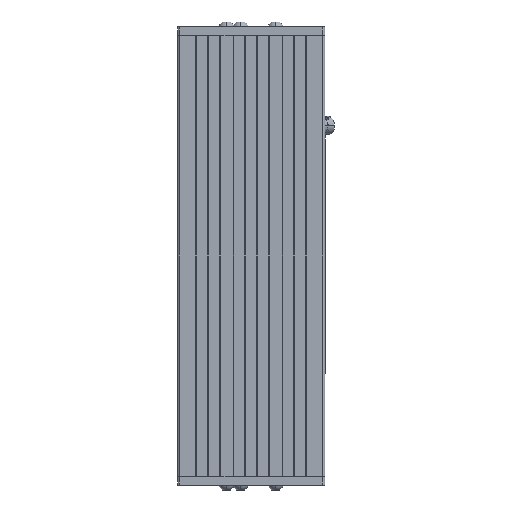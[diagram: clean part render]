
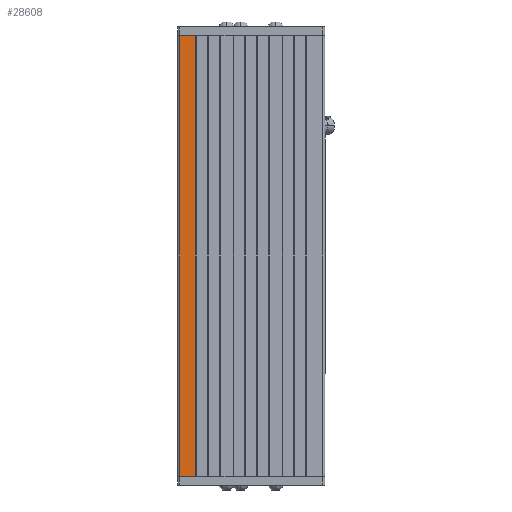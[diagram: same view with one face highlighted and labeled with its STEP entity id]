
A CAD part, front view. The second image highlights one B-rep face of the part: STEP entity #28608.
In plain terms, the highlighted planar face has unit normal (0, -1, 0).
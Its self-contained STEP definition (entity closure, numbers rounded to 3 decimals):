
#383 = CARTESIAN_POINT ( 'NONE',  ( -64.426, -36.746, 0. ) ) ;
#485 = CARTESIAN_POINT ( 'NONE',  ( -49.926, -36.746, 0. ) ) ;
#510 = CARTESIAN_POINT ( 'NONE',  ( -49.926, -36.746, 404. ) ) ;
#566 = CARTESIAN_POINT ( 'NONE',  ( -64.426, -36.746, 404. ) ) ;
#5115 = LINE ( 'NONE', #11749, #5119 ) ;
#5119 = VECTOR ( 'NONE', #11751, 1000. ) ;
#5687 = LINE ( 'NONE', #12205, #5689 ) ;
#5689 = VECTOR ( 'NONE', #12206, 1000. ) ;
#5853 = LINE ( 'NONE', #12316, #5855 ) ;
#5855 = VECTOR ( 'NONE', #12317, 1000. ) ;
#5857 = LINE ( 'NONE', #12318, #5859 ) ;
#5859 = VECTOR ( 'NONE', #12319, 1000. ) ;
#6274 = VERTEX_POINT ( 'NONE', #383 ) ;
#6376 = VERTEX_POINT ( 'NONE', #485 ) ;
#6401 = VERTEX_POINT ( 'NONE', #510 ) ;
#6457 = VERTEX_POINT ( 'NONE', #566 ) ;
#11749 = CARTESIAN_POINT ( 'NONE',  ( -66.426, -36.746, 404. ) ) ;
#11751 = DIRECTION ( 'NONE',  ( 1., 0., 0. ) ) ;
#12205 = CARTESIAN_POINT ( 'NONE',  ( -66.426, -36.746, 0. ) ) ;
#12206 = DIRECTION ( 'NONE',  ( 1., 0., 0. ) ) ;
#12316 = CARTESIAN_POINT ( 'NONE',  ( -64.426, -36.746, 404. ) ) ;
#12317 = DIRECTION ( 'NONE',  ( 0., 0., -1. ) ) ;
#12318 = CARTESIAN_POINT ( 'NONE',  ( -49.926, -36.746, 404. ) ) ;
#12319 = DIRECTION ( 'NONE',  ( 0., 0., -1. ) ) ;
#16775 = AXIS2_PLACEMENT_3D ( 'NONE', #23083, #23084, #23085 ) ;
#23082 = PLANE ( 'NONE',  #16775 ) ;
#23083 = CARTESIAN_POINT ( 'NONE',  ( -66.426, -36.746, 404. ) ) ;
#23084 = DIRECTION ( 'NONE',  ( 0., 1., 0. ) ) ;
#23085 = DIRECTION ( 'NONE',  ( 0., 0., 1. ) ) ;
#26279 = FACE_OUTER_BOUND ( 'NONE', #36976, .T. ) ;
#27940 = EDGE_CURVE ( 'NONE', #6457, #6401, #5115, .T. ) ;
#28094 = EDGE_CURVE ( 'NONE', #6274, #6376, #5687, .T. ) ;
#28142 = EDGE_CURVE ( 'NONE', #6457, #6274, #5853, .T. ) ;
#28143 = EDGE_CURVE ( 'NONE', #6401, #6376, #5857, .T. ) ;
#28608 = ADVANCED_FACE ( 'NONE', ( #26279 ), #23082, .F. ) ;
#35184 = ORIENTED_EDGE ( 'NONE', *, *, #27940, .F. ) ;
#35185 = ORIENTED_EDGE ( 'NONE', *, *, #28142, .T. ) ;
#35186 = ORIENTED_EDGE ( 'NONE', *, *, #28094, .T. ) ;
#35187 = ORIENTED_EDGE ( 'NONE', *, *, #28143, .F. ) ;
#36976 = EDGE_LOOP ( 'NONE', ( #35184, #35185, #35186, #35187 ) ) ;
